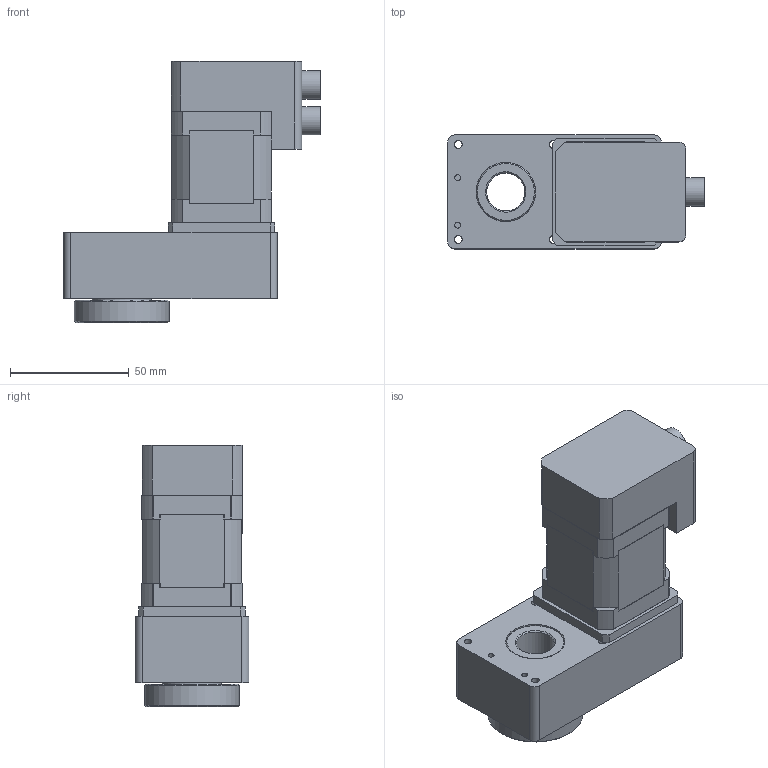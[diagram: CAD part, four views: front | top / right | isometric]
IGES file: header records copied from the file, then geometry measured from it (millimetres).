
Global section: file name: No Iges File Name specified; native system: Autodesk Inventor 2012; preprocessor: AutoDesk Inventor Iges Exporter R2012; author: disegnatore3; date: 20170118.105000; units: millimetre
Bounding box: 108.15 x 48 x 110 mm (x, y, z)
Volume: 262091.4 mm3; surface area: 56633.2 mm2
Topology: 12 solids, 14 shells, 453 faces, 938 edges, 599 vertices
Faces by surface type: plane 198, revolution 131, cylinder 83, torus 16, sphere 14, cone 11
Full cylindrical faces by diameter (mm): 0.5 x10, 2 x10, 3 x8, 5 x1, 5.5 x8, 12 x2, 22 x1, 25 x1, 40 x1
